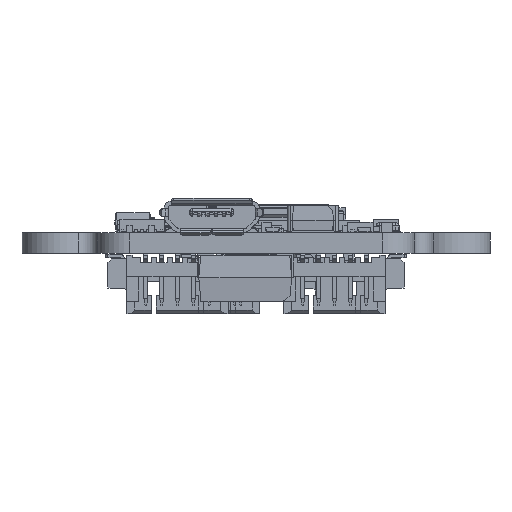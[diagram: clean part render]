
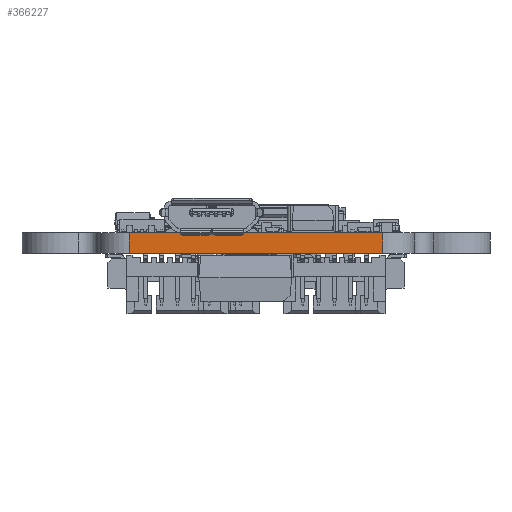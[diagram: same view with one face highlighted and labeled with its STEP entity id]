
A CAD part, left-side view. The second image highlights one B-rep face of the part: STEP entity #366227.
In plain terms, the highlighted planar face has unit normal (-1, 0, 0).
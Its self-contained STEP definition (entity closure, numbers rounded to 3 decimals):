
#362421 = PLANE('',#362422);
#362422 = AXIS2_PLACEMENT_3D('',#362423,#362424,#362425);
#362423 = CARTESIAN_POINT('',(0.,0.,
    1.6));
#362424 = DIRECTION('',(0.,0.,1.));
#362425 = DIRECTION('',(1.,0.,0.));
#362476 = PLANE('',#362477);
#362477 = AXIS2_PLACEMENT_3D('',#362478,#362479,#362480);
#362478 = CARTESIAN_POINT('',(0.,0.,
    0.));
#362479 = DIRECTION('',(0.,0.,1.));
#362480 = DIRECTION('',(1.,0.,0.));
#362843 = VERTEX_POINT('',#362844);
#362844 = CARTESIAN_POINT('',(-26.5,10.,0.));
#362859 = CYLINDRICAL_SURFACE('',#362860,2.5);
#362860 = AXIS2_PLACEMENT_3D('',#362861,#362862,#362863);
#362861 = CARTESIAN_POINT('',(-24.,10.,0.));
#362862 = DIRECTION('',(0.,0.,-1.));
#362863 = DIRECTION('',(1.,0.,0.));
#362871 = EDGE_CURVE('',#362843,#362872,#362874,.T.);
#362872 = VERTEX_POINT('',#362873);
#362873 = CARTESIAN_POINT('',(-26.5,-10.,0.));
#362874 = SURFACE_CURVE('',#362875,(#362879,#362886),.PCURVE_S1.);
#362875 = LINE('',#362876,#362877);
#362876 = CARTESIAN_POINT('',(-26.5,10.,0.));
#362877 = VECTOR('',#362878,1.);
#362878 = DIRECTION('',(0.,-1.,0.));
#362879 = PCURVE('',#362476,#362880);
#362880 = DEFINITIONAL_REPRESENTATION('',(#362881),#362885);
#362881 = LINE('',#362882,#362883);
#362882 = CARTESIAN_POINT('',(-26.5,10.));
#362883 = VECTOR('',#362884,1.);
#362884 = DIRECTION('',(0.,-1.));
#362885 = ( GEOMETRIC_REPRESENTATION_CONTEXT(2) 
PARAMETRIC_REPRESENTATION_CONTEXT() REPRESENTATION_CONTEXT('2D SPACE',''
  ) );
#362886 = PCURVE('',#362887,#362892);
#362887 = PLANE('',#362888);
#362888 = AXIS2_PLACEMENT_3D('',#362889,#362890,#362891);
#362889 = CARTESIAN_POINT('',(-26.5,10.,0.));
#362890 = DIRECTION('',(1.,0.,0.));
#362891 = DIRECTION('',(0.,-1.,0.));
#362892 = DEFINITIONAL_REPRESENTATION('',(#362893),#362897);
#362893 = LINE('',#362894,#362895);
#362894 = CARTESIAN_POINT('',(0.,0.));
#362895 = VECTOR('',#362896,1.);
#362896 = DIRECTION('',(1.,0.));
#362897 = ( GEOMETRIC_REPRESENTATION_CONTEXT(2) 
PARAMETRIC_REPRESENTATION_CONTEXT() REPRESENTATION_CONTEXT('2D SPACE',''
  ) );
#362916 = CYLINDRICAL_SURFACE('',#362917,2.5);
#362917 = AXIS2_PLACEMENT_3D('',#362918,#362919,#362920);
#362918 = CARTESIAN_POINT('',(-24.,-10.,0.));
#362919 = DIRECTION('',(0.,0.,-1.));
#362920 = DIRECTION('',(1.,0.,0.));
#364519 = VERTEX_POINT('',#364520);
#364520 = CARTESIAN_POINT('',(-26.5,10.,1.6));
#364542 = EDGE_CURVE('',#364519,#364543,#364545,.T.);
#364543 = VERTEX_POINT('',#364544);
#364544 = CARTESIAN_POINT('',(-26.5,-10.,1.6));
#364545 = SURFACE_CURVE('',#364546,(#364550,#364557),.PCURVE_S1.);
#364546 = LINE('',#364547,#364548);
#364547 = CARTESIAN_POINT('',(-26.5,10.,1.6));
#364548 = VECTOR('',#364549,1.);
#364549 = DIRECTION('',(0.,-1.,0.));
#364550 = PCURVE('',#362421,#364551);
#364551 = DEFINITIONAL_REPRESENTATION('',(#364552),#364556);
#364552 = LINE('',#364553,#364554);
#364553 = CARTESIAN_POINT('',(-26.5,10.));
#364554 = VECTOR('',#364555,1.);
#364555 = DIRECTION('',(0.,-1.));
#364556 = ( GEOMETRIC_REPRESENTATION_CONTEXT(2) 
PARAMETRIC_REPRESENTATION_CONTEXT() REPRESENTATION_CONTEXT('2D SPACE',''
  ) );
#364557 = PCURVE('',#362887,#364558);
#364558 = DEFINITIONAL_REPRESENTATION('',(#364559),#364563);
#364559 = LINE('',#364560,#364561);
#364560 = CARTESIAN_POINT('',(0.,-1.6));
#364561 = VECTOR('',#364562,1.);
#364562 = DIRECTION('',(1.,0.));
#364563 = ( GEOMETRIC_REPRESENTATION_CONTEXT(2) 
PARAMETRIC_REPRESENTATION_CONTEXT() REPRESENTATION_CONTEXT('2D SPACE',''
  ) );
#366179 = EDGE_CURVE('',#362843,#364519,#366180,.T.);
#366180 = SURFACE_CURVE('',#366181,(#366185,#366192),.PCURVE_S1.);
#366181 = LINE('',#366182,#366183);
#366182 = CARTESIAN_POINT('',(-26.5,10.,0.));
#366183 = VECTOR('',#366184,1.);
#366184 = DIRECTION('',(0.,0.,1.));
#366185 = PCURVE('',#362859,#366186);
#366186 = DEFINITIONAL_REPRESENTATION('',(#366187),#366191);
#366187 = LINE('',#366188,#366189);
#366188 = CARTESIAN_POINT('',(-3.142,0.));
#366189 = VECTOR('',#366190,1.);
#366190 = DIRECTION('',(0.,-1.));
#366191 = ( GEOMETRIC_REPRESENTATION_CONTEXT(2) 
PARAMETRIC_REPRESENTATION_CONTEXT() REPRESENTATION_CONTEXT('2D SPACE',''
  ) );
#366192 = PCURVE('',#362887,#366193);
#366193 = DEFINITIONAL_REPRESENTATION('',(#366194),#366198);
#366194 = LINE('',#366195,#366196);
#366195 = CARTESIAN_POINT('',(0.,0.));
#366196 = VECTOR('',#366197,1.);
#366197 = DIRECTION('',(0.,-1.));
#366198 = ( GEOMETRIC_REPRESENTATION_CONTEXT(2) 
PARAMETRIC_REPRESENTATION_CONTEXT() REPRESENTATION_CONTEXT('2D SPACE',''
  ) );
#366227 = ADVANCED_FACE('',(#366228),#362887,.F.);
#366228 = FACE_BOUND('',#366229,.F.);
#366229 = EDGE_LOOP('',(#366230,#366231,#366232,#366253));
#366230 = ORIENTED_EDGE('',*,*,#366179,.T.);
#366231 = ORIENTED_EDGE('',*,*,#364542,.T.);
#366232 = ORIENTED_EDGE('',*,*,#366233,.F.);
#366233 = EDGE_CURVE('',#362872,#364543,#366234,.T.);
#366234 = SURFACE_CURVE('',#366235,(#366239,#366246),.PCURVE_S1.);
#366235 = LINE('',#366236,#366237);
#366236 = CARTESIAN_POINT('',(-26.5,-10.,0.));
#366237 = VECTOR('',#366238,1.);
#366238 = DIRECTION('',(0.,0.,1.));
#366239 = PCURVE('',#362887,#366240);
#366240 = DEFINITIONAL_REPRESENTATION('',(#366241),#366245);
#366241 = LINE('',#366242,#366243);
#366242 = CARTESIAN_POINT('',(20.,0.));
#366243 = VECTOR('',#366244,1.);
#366244 = DIRECTION('',(0.,-1.));
#366245 = ( GEOMETRIC_REPRESENTATION_CONTEXT(2) 
PARAMETRIC_REPRESENTATION_CONTEXT() REPRESENTATION_CONTEXT('2D SPACE',''
  ) );
#366246 = PCURVE('',#362916,#366247);
#366247 = DEFINITIONAL_REPRESENTATION('',(#366248),#366252);
#366248 = LINE('',#366249,#366250);
#366249 = CARTESIAN_POINT('',(-3.142,0.));
#366250 = VECTOR('',#366251,1.);
#366251 = DIRECTION('',(0.,-1.));
#366252 = ( GEOMETRIC_REPRESENTATION_CONTEXT(2) 
PARAMETRIC_REPRESENTATION_CONTEXT() REPRESENTATION_CONTEXT('2D SPACE',''
  ) );
#366253 = ORIENTED_EDGE('',*,*,#362871,.F.);
